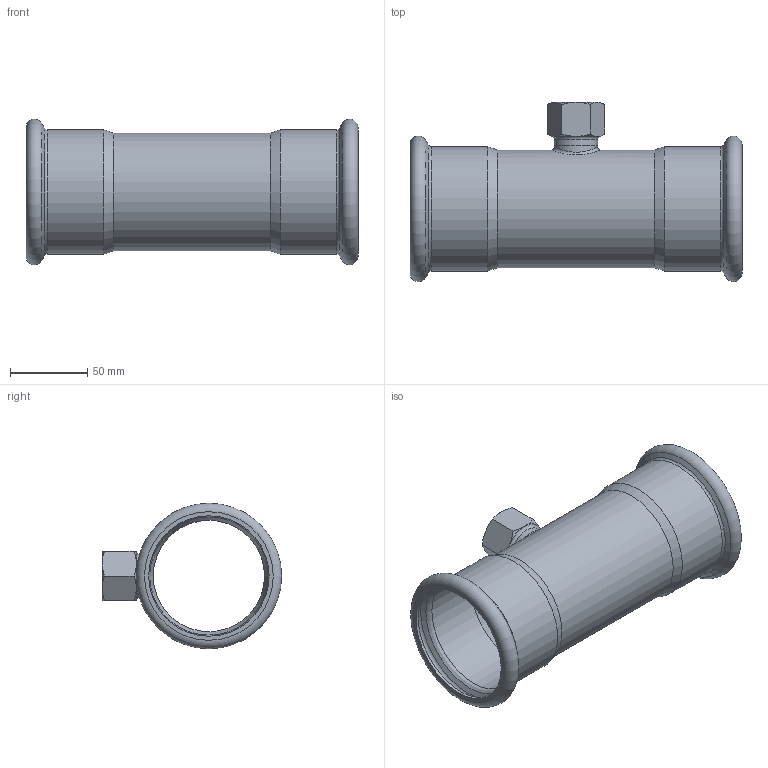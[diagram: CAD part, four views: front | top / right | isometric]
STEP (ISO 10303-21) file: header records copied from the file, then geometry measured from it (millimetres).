
FILE_DESCRIPTION((''),'2;1');
FILE_NAME('G:\Nirosan-Schmiedefeld\Technics\CAD\Bauteile VA\076\69130g763476(4).stp','2011-10-27T14:56:04',('herberg'),(''),'Autodesk Inventor 2009','Autodesk Inventor 2009','');
FILE_SCHEMA(('AUTOMOTIVE_DESIGN { 1 0 10303 214 1 1 1 1 }'));
Length unit declared in the file: millimetre
Products named in the file (3): 69130g763476(4); LM_69130762876(1); IG2834(1)
Assembly tree (2 placements, depth 2):
  69130g763476(4)
    LM_69130762876(1)
    IG2834(1)
Bounding box: 215 x 116.15 x 94.3 mm (x, y, z)
Volume: 122515.1 mm3; surface area: 119360.6 mm2
Topology: 2 solids, 2 shells, 59 faces, 125 edges, 73 vertices
Faces by surface type: cone 21, plane 13, cylinder 11, bspline 10, torus 4
Full cylindrical faces by diameter (mm): 24 x1, 28 x2, 72.1 x1, 76.1 x1, 76.6 x2, 78 x2, 80.6 x2
Entity records: 2974 total; most frequent: CARTESIAN_POINT 1884, DIRECTION 214, ORIENTED_EDGE 170, AXIS2_PLACEMENT_3D 104, EDGE_LOOP 100, EDGE_CURVE 85, VERTEX_POINT 65, FACE_OUTER_BOUND 59
